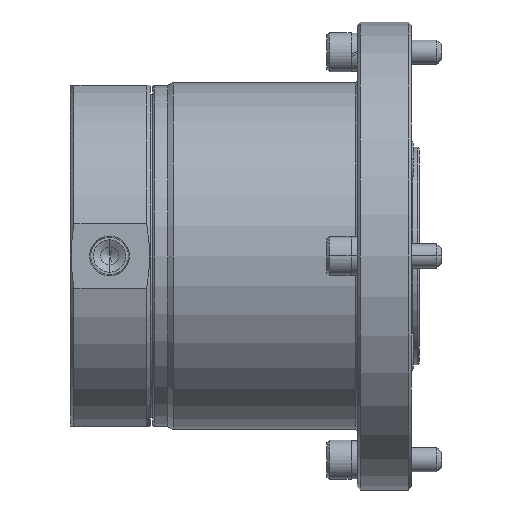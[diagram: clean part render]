
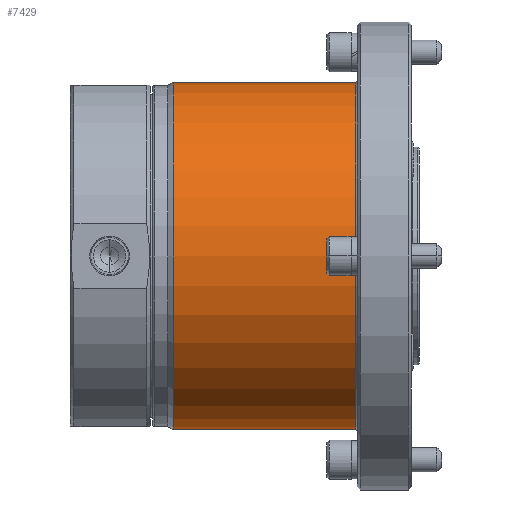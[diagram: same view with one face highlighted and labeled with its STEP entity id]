
A CAD part, left-side view. The second image highlights one B-rep face of the part: STEP entity #7429.
In plain terms, the highlighted cylindrical face has radius 57.5 mm (diameter 115 mm), a partial arc.
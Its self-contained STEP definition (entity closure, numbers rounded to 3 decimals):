
#790 = VERTEX_POINT ( 'NONE', #2194 ) ;
#808 = VERTEX_POINT ( 'NONE', #2245 ) ;
#844 = EDGE_CURVE ( 'NONE', #790, #7093, #2307, .T. ) ;
#846 = EDGE_CURVE ( 'NONE', #808, #6812, #2323, .T. ) ;
#2194 = CARTESIAN_POINT ( 'NONE',  ( 0., 81.468, -57.5 ) ) ;
#2245 = CARTESIAN_POINT ( 'NONE',  ( 0., 81.468, 57.5 ) ) ;
#2300 = DIRECTION ( 'NONE',  ( 0., -1., 0. ) ) ;
#2303 = DIRECTION ( 'NONE',  ( 0., -1., 0. ) ) ;
#2304 = VECTOR ( 'NONE', #2303, 1000. ) ;
#2306 = CARTESIAN_POINT ( 'NONE',  ( 0., 7.366, -57.5 ) ) ;
#2307 = LINE ( 'NONE', #2306, #2304 ) ;
#2308 = VECTOR ( 'NONE', #2300, 1000. ) ;
#2323 = LINE ( 'NONE', #2326, #2308 ) ;
#2326 = CARTESIAN_POINT ( 'NONE',  ( 0., 7.366, 57.5 ) ) ;
#2814 = CIRCLE ( 'NONE', #2860, 57.5 ) ;
#2857 = CARTESIAN_POINT ( 'NONE',  ( 0., 20.9, 57.5 ) ) ;
#2858 = DIRECTION ( 'NONE',  ( 0., 0., -1. ) ) ;
#2859 = DIRECTION ( 'NONE',  ( 0., 1., 0. ) ) ;
#2860 = AXIS2_PLACEMENT_3D ( 'NONE', #2863, #2859, #2858 ) ;
#2863 = CARTESIAN_POINT ( 'NONE',  ( 0., 20.9, 0. ) ) ;
#3415 = CARTESIAN_POINT ( 'NONE',  ( 0., 20.9, -57.5 ) ) ;
#4068 = CYLINDRICAL_SURFACE ( 'NONE', #4115, 57.5 ) ;
#4069 = DIRECTION ( 'NONE',  ( 0., -1., 0. ) ) ;
#4093 = DIRECTION ( 'NONE',  ( 0., 0., -1. ) ) ;
#4094 = DIRECTION ( 'NONE',  ( 0., -1., 0. ) ) ;
#4098 = AXIS2_PLACEMENT_3D ( 'NONE', #4111, #4094, #4093 ) ;
#4103 = CIRCLE ( 'NONE', #4098, 57.5 ) ;
#4105 = DIRECTION ( 'NONE',  ( 0., 0., -1. ) ) ;
#4111 = CARTESIAN_POINT ( 'NONE',  ( 0., 81.468, 0. ) ) ;
#4113 = CARTESIAN_POINT ( 'NONE',  ( 0., 7.366, 0. ) ) ;
#4114 = FACE_OUTER_BOUND ( 'NONE', #7436, .T. ) ;
#4115 = AXIS2_PLACEMENT_3D ( 'NONE', #4113, #4069, #4105 ) ;
#6809 = EDGE_CURVE ( 'NONE', #7093, #6812, #2814, .T. ) ;
#6812 = VERTEX_POINT ( 'NONE', #2857 ) ;
#7093 = VERTEX_POINT ( 'NONE', #3415 ) ;
#7188 = ORIENTED_EDGE ( 'NONE', *, *, #6809, .T. ) ;
#7207 = ORIENTED_EDGE ( 'NONE', *, *, #846, .F. ) ;
#7209 = ORIENTED_EDGE ( 'NONE', *, *, #844, .T. ) ;
#7429 = ADVANCED_FACE ( 'NONE', ( #4114 ), #4068, .T. ) ;
#7433 = EDGE_CURVE ( 'NONE', #808, #790, #4103, .T. ) ;
#7436 = EDGE_LOOP ( 'NONE', ( #7207, #7438, #7209, #7188 ) ) ;
#7438 = ORIENTED_EDGE ( 'NONE', *, *, #7433, .T. ) ;
